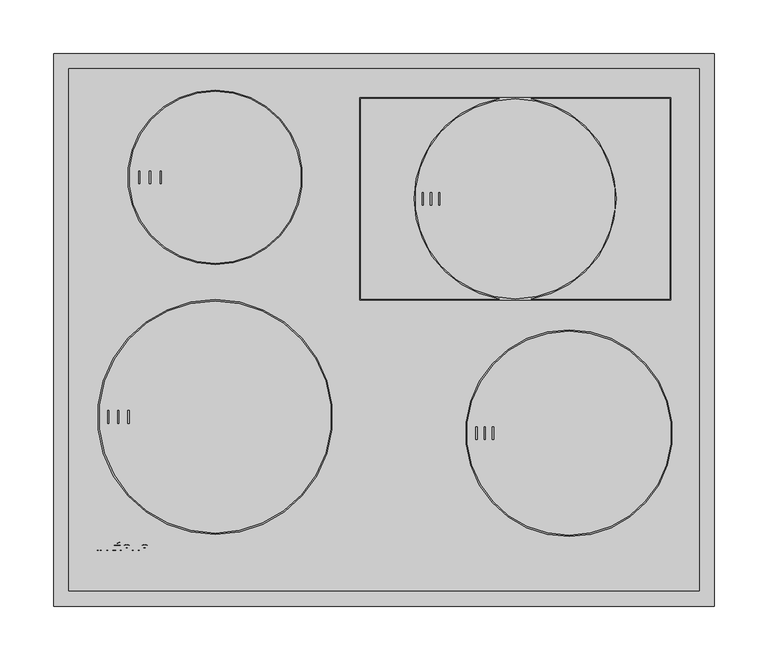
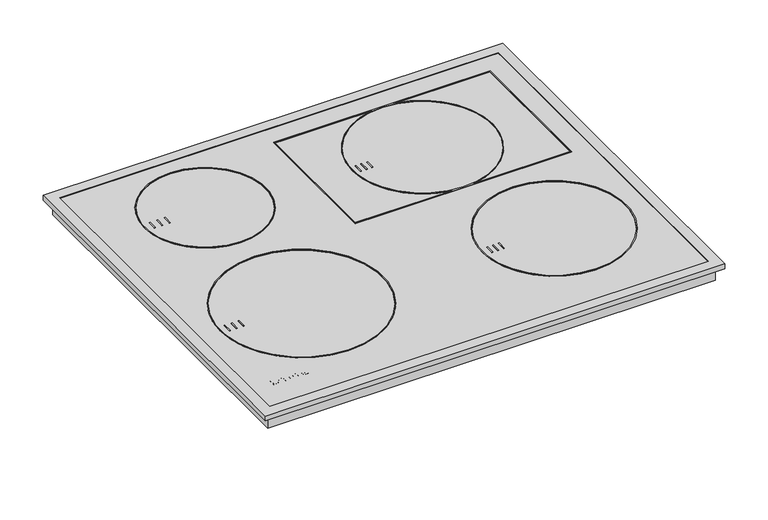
"""IFC4 building model written with IfcOpenShell, lengths in millimetres: proxy geometry, 11206060_RU_KM7262FR : 26726210_RU_11206060_KM7262FR."""

from ifc_helpers import new_model, si_unit, point, frame, frame_2d, origin, place, context, project, spatial, polyline, circle_curve, ellipse_curve, trimmed, segment, composite_curve, outline, extrude, faceted_brep, source, transform, mapped, element, save
from ifc_brep_helpers import plane_surface, cylinder_surface, revolved_surface, extruded_surface, advanced_brep


def specialty_equipment_5991e33c(model_context):
    return source(origin(), model_context, "Body", "SolidModel", [
        extrude(outline(polyline([(299.0, 506.0), (299.0, 8.0), (-299.0, 8.0), (-299.0, 506.0), (299.0, 506.0)])), frame((0.0, 0.0, -18.0), z_axis=(0.0, 0.0, 1.0), x_axis=(1.0, 0.0, 0.0)), (0.0, 0.0, 1.0), 20.0),
        extrude(outline(polyline([(-192.8, 315.7), (-214.2, 315.7), (-214.2, 399.1), (-192.8, 399.1), (-192.8, 449.3), (213.2, 449.3), (213.2, 78.3), (-192.8, 78.3), (-192.8, 315.7)])), frame((0.0, 0.0, -47.7), z_axis=(0.0, 0.0, 1.0), x_axis=(1.0, 0.0, 0.0)), (0.0, 0.0, 1.0), 29.7),
        extrude(outline(polyline([(304.0, 508.0), (304.0, 1.0), (-304.0, 1.0), (-304.0, 508.0), (304.0, 508.0)])), frame((0.0, 0.0, 2.0), z_axis=(0.0, 0.0, 1.0), x_axis=(1.0, 0.0, 0.0)), (0.0, 0.0, 1.0), 4.0),
        faceted_brep([(292.9, 499.9, 7.0), (292.9, 499.9, 6.0), (292.9, 14.1, 6.0), (292.9, 14.1, 7.0), (307.0, 514.0, 0.0), (307.0, 514.0, 7.0), (307.0, 0.0, 7.0), (307.0, 0.0, 0.0), (306.0, 513.0, 6.0), (306.0, 513.0, 0.0), (306.0, 1.0, 0.0), (306.0, 1.0, 6.0), (-292.9, 14.1, 6.0), (-292.9, 14.1, 7.0), (-307.0, 0.0, 7.0), (-307.0, 0.0, 0.0), (-306.0, 1.0, 0.0), (-306.0, 1.0, 6.0), (-292.9, 499.9, 6.0), (-292.9, 499.9, 7.0), (-307.0, 514.0, 7.0), (-307.0, 514.0, 0.0), (-306.0, 513.0, 0.0), (-306.0, 513.0, 6.0)], [[[0, 1, 2, 3]], [[4, 5, 6, 7]], [[8, 9, 10, 11]], [[3, 2, 12, 13]], [[7, 6, 14, 15]], [[11, 10, 16, 17]], [[13, 12, 18, 19]], [[15, 14, 20, 21]], [[17, 16, 22, 23]], [[19, 18, 1, 0]], [[5, 20, 14, 6], [3, 13, 19, 0]], [[21, 20, 5, 4]], [[7, 15, 21, 4], [9, 22, 16, 10]], [[23, 22, 9, 8]], [[11, 17, 23, 8], [1, 18, 12, 2]]]),
        extrude(outline(polyline([(151.2772603, 412.5), (143.9, 412.5), (143.9, 413.7557039), (150.0215564, 413.7557039), (150.0215564, 417.0519266), (144.370889, 417.0519266), (144.370889, 418.3076304), (150.0215564, 418.3076304), (150.0215564, 421.2899271), (144.056963, 421.2899271), (144.056963, 422.545631), (151.2772603, 422.545631), (151.2772603, 412.5)])), frame((0.0, 0.0, -78.7), z_axis=(0.0, 0.0, 1.0), x_axis=(1.0, 0.0, 0.0)), (0.0, 0.0, 1.0), 1.0),
        extrude(outline(polyline([(142.0164442, 412.5), (135.7379248, 412.5), (135.7379248, 413.7557039), (140.7607403, 413.7557039), (140.7607403, 422.545631), (142.0164442, 422.545631), (142.0164442, 412.5)])), frame((0.0, 0.0, -78.7), z_axis=(0.0, 0.0, 1.0), x_axis=(1.0, 0.0, 0.0)), (0.0, 0.0, 1.0), 1.0),
        extrude(outline(composite_curve([segment(trimmed(circle_curve(frame_2d((143.9, 417.5)), 7.5), [point((143.9, 425.0))], [point((143.9, 410.0))], False, "CARTESIAN"), True, "CONTINUOUS"), segment(trimmed(circle_curve(frame_2d((143.9, 417.5)), 7.5), [point((143.9, 410.0))], [point((143.9, 425.0))], False, "CARTESIAN"), True, "CONTINUOUS")], self_intersect=False)), frame((0.0, 0.0, -77.7), z_axis=(0.0, 0.0, 1.0), x_axis=(1.0, 0.0, 0.0)), (0.0, 0.0, 1.0), 30.0),
        extrude(outline(polyline([(50.8, 385.0), (52.0, 385.0), (52.0, 373.0), (50.8, 373.0), (50.8, 385.0)])), frame((0.0, 0.0, 6.0), z_axis=(0.0, 0.0, 1.0), x_axis=(1.0, 0.0, 0.0)), (0.0, 0.0, 1.0), 1.0),
        extrude(outline(polyline([(43.1, 385.0), (44.3, 385.0), (44.3, 373.0), (43.1, 373.0), (43.1, 385.0)])), frame((0.0, 0.0, 6.0), z_axis=(0.0, 0.0, 1.0), x_axis=(1.0, 0.0, 0.0)), (0.0, 0.0, 1.0), 1.0),
        extrude(outline(polyline([(35.4, 385.0), (36.6, 385.0), (36.6, 373.0), (35.4, 373.0), (35.4, 385.0)])), frame((0.0, 0.0, 6.0), z_axis=(0.0, 0.0, 1.0), x_axis=(1.0, 0.0, 0.0)), (0.0, 0.0, 1.0), 1.0),
        extrude(outline(polyline([(266.7, 473.2), (266.7, 284.8), (-22.7, 284.8), (-22.7, 473.2), (266.7, 473.2)]), holes=[composite_curve([segment(trimmed(circle_curve(frame_2d((122.0, 379.0)), 93.0), [point((122.0, 472.0))], [point((122.0, 286.0))], True, "CARTESIAN"), True, "CONTINUOUS"), segment(trimmed(circle_curve(frame_2d((122.0, 379.0)), 93.0), [point((122.0, 286.0))], [point((122.0, 472.0))], True, "CARTESIAN"), True, "CONTINUOUS")], self_intersect=False), composite_curve([segment(trimmed(circle_curve(frame_2d((122.0, 379.0)), 94.2), [point((136.9879952, 472.0))], [point((136.9879952, 286.0))], False, "CARTESIAN"), True, "CONTINUOUS"), segment(polyline([(136.9879952, 286.0), (265.5, 286.0), (265.5, 472.0), (136.9879952, 472.0)]), True, "CONTINUOUS")], self_intersect=False), composite_curve([segment(trimmed(circle_curve(frame_2d((122.0, 379.0)), 94.2), [point((107.0120048, 286.0))], [point((107.0120048, 472.0))], False, "CARTESIAN"), True, "CONTINUOUS"), segment(polyline([(107.0120048, 472.0), (-21.5, 472.0), (-21.5, 286.0), (107.0120048, 286.0)]), True, "CONTINUOUS")], self_intersect=False)]), frame((0.0, 0.0, 6.0), z_axis=(0.0, 0.0, 1.0), x_axis=(1.0, 0.0, 0.0)), (0.0, 0.0, 1.0), 1.0),
        extrude(outline(composite_curve([segment(trimmed(circle_curve(frame_2d((-157.0, 399.0)), 81.2), [point((-157.0, 480.2))], [point((-157.0, 317.8))], False, "CARTESIAN"), True, "CONTINUOUS"), segment(trimmed(circle_curve(frame_2d((-157.0, 399.0)), 81.2), [point((-157.0, 317.8))], [point((-157.0, 480.2))], False, "CARTESIAN"), True, "CONTINUOUS")], self_intersect=False), holes=[composite_curve([segment(trimmed(circle_curve(frame_2d((-157.0, 399.0)), 80.0), [point((-157.0, 479.0))], [point((-157.0, 319.0))], True, "CARTESIAN"), True, "CONTINUOUS"), segment(trimmed(circle_curve(frame_2d((-157.0, 399.0)), 80.0), [point((-157.0, 319.0))], [point((-157.0, 479.0))], True, "CARTESIAN"), True, "CONTINUOUS")], self_intersect=False)]), frame((0.0, 0.0, 6.0), z_axis=(0.0, 0.0, 1.0), x_axis=(1.0, 0.0, 0.0)), (0.0, 0.0, 1.0), 1.0),
        extrude(outline(polyline([(-208.2, 405.0), (-207.0, 405.0), (-207.0, 393.0), (-208.2, 393.0), (-208.2, 405.0)])), frame((0.0, 0.0, 6.0), z_axis=(0.0, 0.0, 1.0), x_axis=(1.0, 0.0, 0.0)), (0.0, 0.0, 1.0), 1.0),
        extrude(outline(polyline([(-218.2, 405.0), (-217.0, 405.0), (-217.0, 393.0), (-218.2, 393.0), (-218.2, 405.0)])), frame((0.0, 0.0, 6.0), z_axis=(0.0, 0.0, 1.0), x_axis=(1.0, 0.0, 0.0)), (0.0, 0.0, 1.0), 1.0),
        extrude(outline(polyline([(-228.2, 405.0), (-227.0, 405.0), (-227.0, 393.0), (-228.2, 393.0), (-228.2, 405.0)])), frame((0.0, 0.0, 6.0), z_axis=(0.0, 0.0, 1.0), x_axis=(1.0, 0.0, 0.0)), (0.0, 0.0, 1.0), 1.0),
        extrude(outline(composite_curve([segment(trimmed(circle_curve(frame_2d((172.0, 161.0)), 96.2), [point((172.0, 257.2))], [point((172.0, 64.8))], False, "CARTESIAN"), True, "CONTINUOUS"), segment(trimmed(circle_curve(frame_2d((172.0, 161.0)), 96.2), [point((172.0, 64.8))], [point((172.0, 257.2))], False, "CARTESIAN"), True, "CONTINUOUS")], self_intersect=False), holes=[composite_curve([segment(trimmed(circle_curve(frame_2d((172.0, 161.0)), 95.0), [point((172.0, 256.0))], [point((172.0, 66.0))], True, "CARTESIAN"), True, "CONTINUOUS"), segment(trimmed(circle_curve(frame_2d((172.0, 161.0)), 95.0), [point((172.0, 66.0))], [point((172.0, 256.0))], True, "CARTESIAN"), True, "CONTINUOUS")], self_intersect=False)]), frame((0.0, 0.0, 6.0), z_axis=(0.0, 0.0, 1.0), x_axis=(1.0, 0.0, 0.0)), (0.0, 0.0, 1.0), 1.0),
        extrude(outline(polyline([(100.8, 167.0), (102.0, 167.0), (102.0, 155.0), (100.8, 155.0), (100.8, 167.0)])), frame((0.0, 0.0, 6.0), z_axis=(0.0, 0.0, 1.0), x_axis=(1.0, 0.0, 0.0)), (0.0, 0.0, 1.0), 1.0),
        extrude(outline(polyline([(93.1, 167.0), (94.3, 167.0), (94.3, 155.0), (93.1, 155.0), (93.1, 167.0)])), frame((0.0, 0.0, 6.0), z_axis=(0.0, 0.0, 1.0), x_axis=(1.0, 0.0, 0.0)), (0.0, 0.0, 1.0), 1.0),
        extrude(outline(polyline([(85.4, 167.0), (86.6, 167.0), (86.6, 155.0), (85.4, 155.0), (85.4, 167.0)])), frame((0.0, 0.0, 6.0), z_axis=(0.0, 0.0, 1.0), x_axis=(1.0, 0.0, 0.0)), (0.0, 0.0, 1.0), 1.0),
        extrude(outline(composite_curve([segment(trimmed(circle_curve(frame_2d((-157.0, 176.0)), 109.2), [point((-157.0, 285.2))], [point((-157.0, 66.8))], False, "CARTESIAN"), True, "CONTINUOUS"), segment(trimmed(circle_curve(frame_2d((-157.0, 176.0)), 109.2), [point((-157.0, 66.8))], [point((-157.0, 285.2))], False, "CARTESIAN"), True, "CONTINUOUS")], self_intersect=False), holes=[composite_curve([segment(trimmed(circle_curve(frame_2d((-157.0, 176.0)), 108.0), [point((-157.0, 284.0))], [point((-157.0, 68.0))], True, "CARTESIAN"), True, "CONTINUOUS"), segment(trimmed(circle_curve(frame_2d((-157.0, 176.0)), 108.0), [point((-157.0, 68.0))], [point((-157.0, 284.0))], True, "CARTESIAN"), True, "CONTINUOUS")], self_intersect=False)]), frame((0.0, 0.0, 6.0), z_axis=(0.0, 0.0, 1.0), x_axis=(1.0, 0.0, 0.0)), (0.0, 0.0, 1.0), 1.0),
        extrude(outline(polyline([(-257.0, 182.0), (-255.8, 182.0), (-255.8, 170.0), (-257.0, 170.0), (-257.0, 182.0)])), frame((0.0, 0.0, 6.0), z_axis=(0.0, 0.0, 1.0), x_axis=(1.0, 0.0, 0.0)), (0.0, 0.0, 1.0), 1.0),
        extrude(outline(polyline([(-247.6, 182.0), (-246.4, 182.0), (-246.4, 170.0), (-247.6, 170.0), (-247.6, 182.0)])), frame((0.0, 0.0, 6.0), z_axis=(0.0, 0.0, 1.0), x_axis=(1.0, 0.0, 0.0)), (0.0, 0.0, 1.0), 1.0),
        extrude(outline(polyline([(-238.2, 182.0), (-237.0, 182.0), (-237.0, 170.0), (-238.2, 170.0), (-238.2, 182.0)])), frame((0.0, 0.0, 6.0), z_axis=(0.0, 0.0, 1.0), x_axis=(1.0, 0.0, 0.0)), (0.0, 0.0, 1.0), 1.0),
        advanced_brep(
        [(-223.14, 52.6948833, 6.0802537), (-223.14, 53.5028828, 6.0811551), (-217.788, 53.5028828, 6.0811551), (-227.1, 53.5028828, 6.0811551), (-224.9, 50.7988845, 6.0781386), (-217.924, 52.6948833, 6.0802537), (-220.34, 52.6948833, 6.0802537), (-222.244, 51.7988838, 6.0792542), (-223.14, 54.5268821, 6.0822974), (-223.14, 55.3988816, 6.0832701), (-221.772, 55.3988816, 6.0832701), (-221.772, 54.5268821, 6.0822974), (-223.14, 52.6959988, 5.0802543), (-222.244, 51.7999994, 5.0792548), (-220.34, 52.6959988, 5.0802543), (-217.924, 52.6959988, 5.0802543), (-224.9, 50.8, 5.0781393), (-227.1, 53.5039983, 5.0811557), (-217.788, 53.5039983, 5.0811557), (-223.14, 53.5039983, 5.0811557), (-223.14, 54.5279977, 5.082298), (-221.772, 54.5279977, 5.082298), (-221.772, 55.3999971, 5.0832707), (-223.14, 55.3999971, 5.0832707)],
        [
            (0, 1),
            (1, 2),
            (2, 3, ellipse_curve(frame((-222.444, 53.5028828, 6.0811551), z_axis=(0.0, -0.0011155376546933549, 0.9999993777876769), x_axis=(-1.0, 0.0, 0.0)), 4.656, 3.848)),
            (3, 4, circle_curve(frame((-224.0039564, 53.7748826, 6.0814585), z_axis=(0.0, -0.0011155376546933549, 0.9999993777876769), x_axis=(0.0, -0.9999993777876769, -0.0011155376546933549)), 3.1079688)),
            (4, 5, circle_curve(frame((-222.5372064, 55.8868813, 6.0838145), z_axis=(0.0, -0.0011155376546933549, 0.9999993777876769), x_axis=(0.0, -0.9999993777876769, -0.0011155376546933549)), 5.6098607)),
            (5, 6),
            (6, 7, circle_curve(frame((-221.8529412, 53.4388828, 6.0810837), z_axis=(0.0, 0.0011155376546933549, -0.9999993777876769), x_axis=(0.0, -0.9999993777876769, -0.0011155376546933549)), 1.6859795)),
            (7, 0, circle_curve(frame((-222.244, 52.6948833, 6.0802537), z_axis=(0.0, 0.0011155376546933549, -0.9999993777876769), x_axis=(0.0, -0.9999993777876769, -0.0011155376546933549)), 0.896)),
            (8, 9),
            (9, 10, circle_curve(frame((-222.456, 55.3988816, 6.0832701), z_axis=(0.0, 0.0011155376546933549, -0.9999993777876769), x_axis=(0.0, -0.9999993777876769, -0.0011155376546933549)), 0.684)),
            (10, 11),
            (11, 8),
            (12, 13, circle_curve(frame((-222.244, 52.6959988, 5.0802543), z_axis=(0.0, -0.0011155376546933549, 0.9999993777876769), x_axis=(0.0, -0.9999993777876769, -0.0011155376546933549)), 0.896)),
            (13, 14, circle_curve(frame((-221.8529412, 53.4399984, 5.0810843), z_axis=(0.0, -0.0011155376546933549, 0.9999993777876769), x_axis=(0.0, -0.9999993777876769, -0.0011155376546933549)), 1.6859795)),
            (14, 15),
            (15, 16, circle_curve(frame((-222.5372064, 55.8879968, 5.0838151), z_axis=(0.0, 0.0011155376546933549, -0.9999993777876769), x_axis=(0.0, -0.9999993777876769, -0.0011155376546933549)), 5.6098607)),
            (16, 17, circle_curve(frame((-224.0039564, 53.7759981, 5.0814591), z_axis=(0.0, 0.0011155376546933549, -0.9999993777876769), x_axis=(0.0, -0.9999993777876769, -0.0011155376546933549)), 3.1079688)),
            (17, 18, ellipse_curve(frame((-222.444, 53.5039983, 5.0811557), z_axis=(0.0, 0.0011155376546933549, -0.9999993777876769), x_axis=(-1.0, 0.0, 0.0)), 4.656, 3.848)),
            (18, 19),
            (19, 12),
            (20, 21),
            (21, 22),
            (22, 23, circle_curve(frame((-222.456, 55.3999971, 5.0832707), z_axis=(0.0, -0.0011155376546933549, 0.9999993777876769), x_axis=(0.0, -0.9999993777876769, -0.0011155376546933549)), 0.684)),
            (23, 20),
            (0, 12),
            (19, 1),
            (18, 2),
            (5, 15),
            (14, 6),
            (17, 3),
            (13, 7),
            (16, 4),
            (8, 20),
            (23, 9),
            (22, 10),
            (21, 11),
        ],
        [
            plane_surface(frame((-223.14, 53.5028828, 6.0811551), z_axis=(0.0, -0.0011155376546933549, 0.9999993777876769), x_axis=(0.0, 0.9999993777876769, 0.0011155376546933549))),
            plane_surface(frame((-223.14, 53.5039983, 5.0811557), z_axis=(0.0, 0.0011155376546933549, -0.9999993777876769), x_axis=(0.0, -0.9999993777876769, -0.0011155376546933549))),
            plane_surface(frame((-223.14, 52.6948833, 6.0802537), z_axis=(1.0000000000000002, 0.0, 0.0), x_axis=(0.0, 0.001115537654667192, -0.999999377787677))),
            plane_surface(frame((-223.14, 53.5028828, 6.0811551), z_axis=(0.0, -0.999999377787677, -0.001115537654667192), x_axis=(0.0, 0.001115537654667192, -0.999999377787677))),
            plane_surface(frame((-217.924, 52.6948833, 6.0802537), z_axis=(0.0, 0.999999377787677, 0.001115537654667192), x_axis=(0.0, 0.001115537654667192, -0.999999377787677))),
            extruded_surface(trimmed(ellipse_curve(frame((-222.444, 53.5051139, 4.0811563), z_axis=(0.0, -0.0011155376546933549, 0.9999993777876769), x_axis=(-1.0, 0.0, 0.0)), 4.656, 3.848), [point((-217.788, 53.5051139, 4.0811563))], [point((-227.1, 53.5051139, 4.0811563))], True, "CARTESIAN"), (0.0, -0.001115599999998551, 0.9999994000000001), 1.00000002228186),
            revolved_surface(polyline([(-221.8529412, 51.75401994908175, 5.079203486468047), (-221.8529412, 51.75290441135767, 6.079202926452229)]), (-221.8529412, 53.4399984, 5.0810843), (0.0, 0.0011155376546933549, -0.9999993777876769)),
            revolved_surface(polyline([(-222.244, 51.79999935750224, 5.079254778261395), (-222.244, 51.79888381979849, 6.079254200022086)]), (-222.244, 52.6959988, 5.0802543), (0.0, 0.0011155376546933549, -0.9999993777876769)),
            cylinder_surface(frame((-224.0039564, 53.7759981, 5.0814591), z_axis=(0.0, -0.0011155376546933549, 0.9999993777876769), x_axis=(0.0, -0.9999993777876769, -0.0011155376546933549)), 3.1079688),
            cylinder_surface(frame((-222.5372064, 55.8879968, 5.0838151), z_axis=(0.0, -0.0011155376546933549, 0.9999993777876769), x_axis=(0.0, -0.9999993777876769, -0.0011155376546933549)), 5.6098607),
            plane_surface(frame((-223.14, 54.5268821, 6.0822974), z_axis=(1.0000000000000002, 0.0, 0.0), x_axis=(0.0, 0.001115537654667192, -0.999999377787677))),
            revolved_surface(polyline([(-222.456, 54.71599752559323, 5.08250767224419), (-222.456, 54.714881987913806, 6.082507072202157)]), (-222.456, 55.3999971, 5.0832707), (0.0, 0.0011155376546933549, -0.9999993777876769)),
            plane_surface(frame((-221.772, 55.3988816, 6.0832701), z_axis=(-1.0000000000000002, 0.0, 0.0), x_axis=(0.0, 0.001115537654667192, -0.999999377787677))),
            plane_surface(frame((-221.772, 54.5268821, 6.0822974), z_axis=(0.0, 0.999999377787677, 0.001115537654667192), x_axis=(0.0, 0.001115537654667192, -0.999999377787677))),
        ],
        [
            (0, [[1, 2, 3, 4, 5, 6, 7, 8], [9, 10, 11, 12]]),
            (1, [[13, 14, 15, 16, 17, 18, 19, 20], [21, 22, 23, 24]]),
            (2, [[-1, 25, -20, 26]]),
            (3, [[-2, -26, -19, 27]]),
            (4, [[-6, 28, -15, 29]]),
            (5, [[-3, -27, -18, 30]]),
            (6, [[-7, -29, -14, 31]]),
            (7, [[-8, -31, -13, -25]]),
            (8, [[-4, -30, -17, 32]]),
            (9, [[-5, -32, -16, -28]]),
            (10, [[-9, 33, -24, 34]]),
            (11, [[-10, -34, -23, 35]]),
            (12, [[-11, -35, -22, 36]]),
            (13, [[-12, -36, -21, -33]]),
        ],
    ),
        advanced_brep(
        [(-239.836, 52.6948833, 6.0802537), (-239.836, 53.5028828, 6.0811551), (-234.484, 53.5028828, 6.0811551), (-243.796, 53.5028828, 6.0811551), (-241.596, 50.7988845, 6.0781386), (-234.62, 52.6948833, 6.0802537), (-237.036, 52.6948833, 6.0802537), (-238.94, 51.7988838, 6.0792542), (-239.836, 54.5268821, 6.0822974), (-239.836, 55.3988816, 6.0832701), (-238.468, 55.3988816, 6.0832701), (-238.468, 54.5268821, 6.0822974), (-239.836, 52.6959988, 5.0802543), (-238.94, 51.7999994, 5.0792548), (-237.036, 52.6959988, 5.0802543), (-234.62, 52.6959988, 5.0802543), (-241.596, 50.8, 5.0781393), (-243.796, 53.5039983, 5.0811557), (-234.484, 53.5039983, 5.0811557), (-239.836, 53.5039983, 5.0811557), (-239.836, 54.5279977, 5.082298), (-238.468, 54.5279977, 5.082298), (-238.468, 55.3999971, 5.0832707), (-239.836, 55.3999971, 5.0832707)],
        [
            (0, 1),
            (1, 2),
            (2, 3, ellipse_curve(frame((-239.14, 53.5028828, 6.0811551), z_axis=(0.0, -0.0011155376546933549, 0.9999993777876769), x_axis=(-1.0, 0.0, 0.0)), 4.656, 3.848)),
            (3, 4, circle_curve(frame((-240.6999564, 53.7748826, 6.0814585), z_axis=(0.0, -0.0011155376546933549, 0.9999993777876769), x_axis=(0.0, -0.9999993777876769, -0.0011155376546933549)), 3.1079688)),
            (4, 5, circle_curve(frame((-239.2332064, 55.8868813, 6.0838145), z_axis=(0.0, -0.0011155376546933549, 0.9999993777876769), x_axis=(0.0, -0.9999993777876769, -0.0011155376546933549)), 5.6098607)),
            (5, 6),
            (6, 7, circle_curve(frame((-238.5489412, 53.4388828, 6.0810837), z_axis=(0.0, 0.0011155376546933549, -0.9999993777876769), x_axis=(0.0, -0.9999993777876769, -0.0011155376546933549)), 1.6859795)),
            (7, 0, circle_curve(frame((-238.94, 52.6948833, 6.0802537), z_axis=(0.0, 0.0011155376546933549, -0.9999993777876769), x_axis=(0.0, -0.9999993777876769, -0.0011155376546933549)), 0.896)),
            (8, 9),
            (9, 10, circle_curve(frame((-239.152, 55.3988816, 6.0832701), z_axis=(0.0, 0.0011155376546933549, -0.9999993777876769), x_axis=(0.0, -0.9999993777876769, -0.0011155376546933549)), 0.684)),
            (10, 11),
            (11, 8),
            (12, 13, circle_curve(frame((-238.94, 52.6959988, 5.0802543), z_axis=(0.0, -0.0011155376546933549, 0.9999993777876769), x_axis=(0.0, -0.9999993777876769, -0.0011155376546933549)), 0.896)),
            (13, 14, circle_curve(frame((-238.5489412, 53.4399984, 5.0810843), z_axis=(0.0, -0.0011155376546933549, 0.9999993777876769), x_axis=(0.0, -0.9999993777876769, -0.0011155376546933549)), 1.6859795)),
            (14, 15),
            (15, 16, circle_curve(frame((-239.2332064, 55.8879968, 5.0838151), z_axis=(0.0, 0.0011155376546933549, -0.9999993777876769), x_axis=(0.0, -0.9999993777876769, -0.0011155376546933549)), 5.6098607)),
            (16, 17, circle_curve(frame((-240.6999564, 53.7759981, 5.0814591), z_axis=(0.0, 0.0011155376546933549, -0.9999993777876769), x_axis=(0.0, -0.9999993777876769, -0.0011155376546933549)), 3.1079688)),
            (17, 18, ellipse_curve(frame((-239.14, 53.5039983, 5.0811557), z_axis=(0.0, 0.0011155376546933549, -0.9999993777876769), x_axis=(-1.0, 0.0, 0.0)), 4.656, 3.848)),
            (18, 19),
            (19, 12),
            (20, 21),
            (21, 22),
            (22, 23, circle_curve(frame((-239.152, 55.3999971, 5.0832707), z_axis=(0.0, -0.0011155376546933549, 0.9999993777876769), x_axis=(0.0, -0.9999993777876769, -0.0011155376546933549)), 0.684)),
            (23, 20),
            (0, 12),
            (19, 1),
            (18, 2),
            (5, 15),
            (14, 6),
            (17, 3),
            (13, 7),
            (16, 4),
            (8, 20),
            (23, 9),
            (22, 10),
            (21, 11),
        ],
        [
            plane_surface(frame((-239.836, 53.5028828, 6.0811551), z_axis=(0.0, -0.0011155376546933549, 0.9999993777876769), x_axis=(0.0, 0.9999993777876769, 0.0011155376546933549))),
            plane_surface(frame((-239.836, 53.5039983, 5.0811557), z_axis=(0.0, 0.0011155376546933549, -0.9999993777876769), x_axis=(0.0, -0.9999993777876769, -0.0011155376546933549))),
            plane_surface(frame((-239.836, 52.6948833, 6.0802537), z_axis=(1.0000000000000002, 0.0, 0.0), x_axis=(0.0, 0.001115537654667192, -0.999999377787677))),
            plane_surface(frame((-239.836, 53.5028828, 6.0811551), z_axis=(0.0, -0.999999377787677, -0.001115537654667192), x_axis=(0.0, 0.001115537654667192, -0.999999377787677))),
            plane_surface(frame((-234.62, 52.6948833, 6.0802537), z_axis=(0.0, 0.999999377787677, 0.001115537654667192), x_axis=(0.0, 0.001115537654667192, -0.999999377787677))),
            extruded_surface(trimmed(ellipse_curve(frame((-239.14, 53.5051139, 4.0811563), z_axis=(0.0, -0.0011155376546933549, 0.9999993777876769), x_axis=(-1.0, 0.0, 0.0)), 4.656, 3.848), [point((-234.484, 53.5051139, 4.0811563))], [point((-243.796, 53.5051139, 4.0811563))], True, "CARTESIAN"), (0.0, -0.001115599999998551, 0.9999994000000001), 1.00000002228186),
            revolved_surface(polyline([(-238.5489412, 51.75401994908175, 5.079203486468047), (-238.5489412, 51.75290441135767, 6.079202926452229)]), (-238.5489412, 53.4399984, 5.0810843), (0.0, 0.0011155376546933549, -0.9999993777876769)),
            revolved_surface(polyline([(-238.94, 51.79999935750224, 5.079254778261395), (-238.94, 51.79888381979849, 6.079254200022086)]), (-238.94, 52.6959988, 5.0802543), (0.0, 0.0011155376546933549, -0.9999993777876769)),
            cylinder_surface(frame((-240.6999564, 53.7759981, 5.0814591), z_axis=(0.0, -0.0011155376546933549, 0.9999993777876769), x_axis=(0.0, -0.9999993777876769, -0.0011155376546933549)), 3.1079688),
            cylinder_surface(frame((-239.2332064, 55.8879968, 5.0838151), z_axis=(0.0, -0.0011155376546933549, 0.9999993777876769), x_axis=(0.0, -0.9999993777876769, -0.0011155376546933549)), 5.6098607),
            plane_surface(frame((-239.836, 54.5268821, 6.0822974), z_axis=(1.0000000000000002, 0.0, 0.0), x_axis=(0.0, 0.001115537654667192, -0.999999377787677))),
            revolved_surface(polyline([(-239.152, 54.71599752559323, 5.08250767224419), (-239.152, 54.714881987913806, 6.082507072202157)]), (-239.152, 55.3999971, 5.0832707), (0.0, 0.0011155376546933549, -0.9999993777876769)),
            plane_surface(frame((-238.468, 55.3988816, 6.0832701), z_axis=(-1.0000000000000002, 0.0, 0.0), x_axis=(0.0, 0.001115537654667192, -0.999999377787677))),
            plane_surface(frame((-238.468, 54.5268821, 6.0822974), z_axis=(0.0, 0.999999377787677, 0.001115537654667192), x_axis=(0.0, 0.001115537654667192, -0.999999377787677))),
        ],
        [
            (0, [[1, 2, 3, 4, 5, 6, 7, 8], [9, 10, 11, 12]]),
            (1, [[13, 14, 15, 16, 17, 18, 19, 20], [21, 22, 23, 24]]),
            (2, [[-1, 25, -20, 26]]),
            (3, [[-2, -26, -19, 27]]),
            (4, [[-6, 28, -15, 29]]),
            (5, [[-3, -27, -18, 30]]),
            (6, [[-7, -29, -14, 31]]),
            (7, [[-8, -31, -13, -25]]),
            (8, [[-4, -30, -17, 32]]),
            (9, [[-5, -32, -16, -28]]),
            (10, [[-9, 33, -24, 34]]),
            (11, [[-10, -34, -23, 35]]),
            (12, [[-11, -35, -22, 36]]),
            (13, [[-12, -36, -21, -33]]),
        ],
    ),
        extrude(outline(polyline([(0.0, 0.0), (-0.0109086, -2.9993294), (-1.4390415, -2.9920868), (-1.4315307, 0.0), (0.0, 0.0)])), frame((-248.58, 58.3279953, 5.086537), z_axis=(0.0, -0.001115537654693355, 0.9999993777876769), x_axis=(-0.4247202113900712, 0.9053240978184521, 0.0010099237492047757)), (0.0, 0.0, 1.0), 1.0),
        extrude(outline(polyline([(-0.4933908, 2.4141097), (-2.7800844, -2.4601583), (-7.0459741, -0.4588767), (-7.4401145, -1.299018), (-8.6568709, -0.728194), (-5.9760369, 4.9862153), (-4.7592805, 4.4153913), (-5.1636142, 3.5535222), (-2.1941493, 2.1604399), (-1.7898157, 3.022309), (-0.4933908, 2.4141097)])), frame((-248.58, 58.3279953, 5.086537), z_axis=(0.0, -0.001115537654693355, 0.9999993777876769), x_axis=(-0.4247202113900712, 0.9053240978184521, 0.0010099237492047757)), (0.0, 0.0, 1.0), 1.0),
        extrude(outline(polyline([(0.0, 0.0), (0.0, -1.304), (-5.504, -1.304), (-5.504, 5.3519999), (-6.488, 5.3519999), (-6.488, 6.696), (0.0, 6.696), (0.0, 5.3519999), (-0.96, 5.3519999), (-0.96, 0.0), (0.0, 0.0)])), frame((-234.036, 57.4959958, 5.0856089), z_axis=(0.0, -0.0011155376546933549, 0.9999993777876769), x_axis=(-1.0, 0.0, 0.0)), (0.0, 0.0, 1.0), 1.0),
        extrude(outline(polyline([(0.0, 0.0), (0.0, -1.304), (-5.576, -1.304), (-7.92, 1.696), (-10.256, -1.304), (-15.128, -1.304), (-15.128, 0.0), (-14.112, 0.0), (-14.112, 5.3519999), (-15.128, 5.3519999), (-15.128, 6.696), (-8.744, 6.696), (-8.744, 5.3519999), (-9.728, 5.3519999), (-9.728, 1.8807777), (-6.136, 6.696), (-2.56, 1.9488752), (-2.56, 5.3519999), (-3.52, 5.3519999), (-3.52, 6.696), (0.0, 6.696), (0.0, 5.3519999), (-0.968, 5.3519999), (-0.968, 0.0), (0.0, 0.0)])), frame((-266.5, 57.4959958, 5.0856089), z_axis=(0.0, -0.0011155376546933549, 0.9999993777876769), x_axis=(-1.0, 0.0, 0.0)), (0.0, 0.0, 1.0), 1.0),
    ])


if __name__ == "__main__":
    model = new_model("IFC4")
    model_context = context("Model", 3, world=origin())
    ifc_project = project(units=[si_unit("LENGTHUNIT", "METRE", prefix="MILLI")], contexts=[model_context])
    site = spatial("IfcSite", under=ifc_project)
    building = spatial("IfcBuilding", under=site)
    placement = place(None, origin())
    specialty_equipment_shape = specialty_equipment_5991e33c(model_context)
    element("IfcBuildingElementProxy", 1, Name="11206060_RU_KM7262FR : 26726210_RU_11206060_KM7262FR", ObjectType="11206060_RU_KM7262FR : 26726210_RU_11206060_KM7262FR", at=placement, inside=building, context=model_context, shape_type="MappedRepresentation", body=[
        mapped(specialty_equipment_shape, transform((0.0, 0.0, 0.0), x_axis=(1.0, 0.0, 0.0), y_axis=(0.0, 1.0, 0.0), z_axis=(0.0, 0.0, 1.0))),
    ])
    save(model, "model.ifc")
